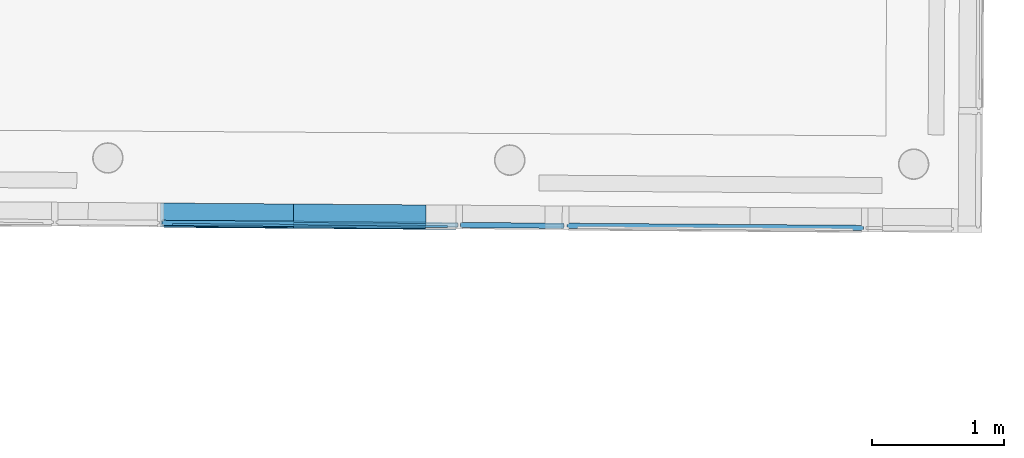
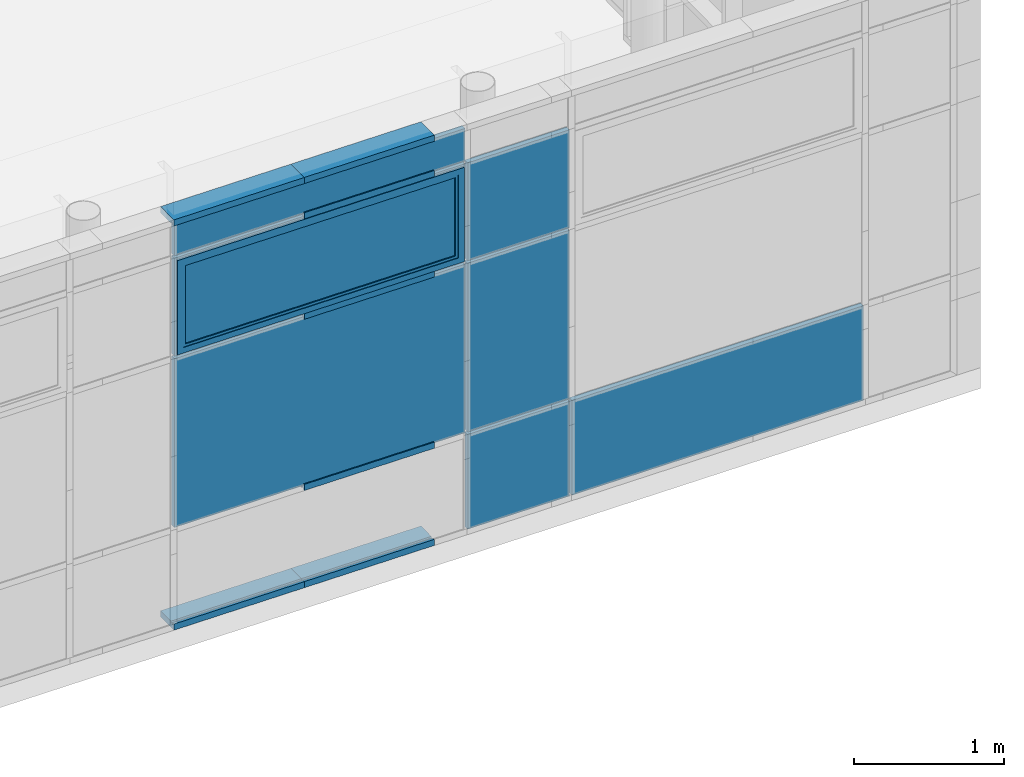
# One storey, part 141 of 196: 15 building element parts, 1 element without a shape of its own.
"""IFC2X3 building model written with IfcOpenShell, lengths in metres."""

import ifcopenshell
import ifcopenshell.guid

model = None  # the IFC model being written
_history = None  # IfcOwnerHistory: only IFC2X3 demands one
_inside = {}  # id of a spatial element -> (the spatial element, [elements in it])
_under = {}  # id of a project, library or spatial element -> (it, [spatial elements below it])
_declared = {}  # id of a project -> (the project, [libraries it declares])
_typed = {}  # id of a type object -> (the type object, [elements of that type])
_made_of = {}  # id of a material, layer set ... -> (it, [elements and type objects made of it])


def new_model(schema):
    """Start an empty IFC model of exactly this schema.

    Asked for "IFC4X3", IfcOpenShell would pick the latest addendum, in which some entities
    have other attributes; the version numbers below select the first issue.
    IFC2X3 requires an IfcOwnerHistory on every rooted entity: one is made here for all.
    """
    global model, _history
    if schema == "IFC4X3":
        model = ifcopenshell.file(schema_version=(4, 3, 0, 0))
    else:
        model = ifcopenshell.file(schema=schema)
    _inside.clear()
    _under.clear()
    _declared.clear()
    _typed.clear()
    _made_of.clear()
    _history = None
    if model.schema == "IFC2X3":
        org = make("IfcOrganization", Name="unknown")
        user = make(
            "IfcPersonAndOrganization",
            ThePerson=make("IfcPerson", FamilyName="unknown"),
            TheOrganization=org,
        )
        app = make(
            "IfcApplication",
            ApplicationDeveloper=org,
            Version="unknown",
            ApplicationFullName="unknown",
            ApplicationIdentifier="unknown",
        )
        _history = make(
            "IfcOwnerHistory",
            OwningUser=user,
            OwningApplication=app,
            ChangeAction="ADDED",
            CreationDate=0,
        )
    return model


def make(cls, **values):
    """One entity of the class cls with the attributes given. An attribute that is None is left unset."""
    return model.create_entity(
        cls, **{name: value for name, value in values.items() if value is not None}
    )


def entity(cls, *values):
    """Any entity or typed value of the class cls, its attributes in the order of the schema. None: left unset."""
    e = model.create_entity(cls)
    for i, value in enumerate(values):
        if value is not None:
            e[i] = value
    return e


def rooted(cls, **values):
    """An entity with a GlobalId (a new one), such as an element, a storey or a relation."""
    return make(cls, GlobalId=ifcopenshell.guid.new(), OwnerHistory=_history, **values)


def si_unit(unit_type, name, prefix=None):
    """IfcSIUnit, for example si_unit("LENGTHUNIT", "METRE", prefix="MILLI")."""
    return make("IfcSIUnit", UnitType=unit_type, Prefix=prefix, Name=name)


def converted_unit(unit_type, name, factor, base, dimensions=None, offset=None):
    """IfcConversionBasedUnit, such as the inch: factor (a typed value) times the base unit."""
    return make(
        "IfcConversionBasedUnit"
        if offset is None
        else "IfcConversionBasedUnitWithOffset",
        ConversionOffset=offset,
        Dimensions=None
        if dimensions is None
        else entity("IfcDimensionalExponents", *dimensions),
        UnitType=unit_type,
        Name=name,
        ConversionFactor=make(
            "IfcMeasureWithUnit", ValueComponent=factor, UnitComponent=base
        ),
    )


def derived_unit(unit_type, elements):
    """IfcDerivedUnit: a product of units, each with its exponent."""
    return make(
        "IfcDerivedUnit",
        Elements=[
            make("IfcDerivedUnitElement", Unit=unit, Exponent=power)
            for unit, power in elements
        ],
        UnitType=unit_type,
    )


def money_unit(currency):
    """IfcMonetaryUnit."""
    return make("IfcMonetaryUnit", Currency=currency)


def assignment(units):
    """IfcUnitAssignment: the units of a project."""
    return None if units is None else make("IfcUnitAssignment", Units=units)


def point(xyz):
    """IfcCartesianPoint."""
    return None if xyz is None else make("IfcCartesianPoint", Coordinates=xyz)


def direction(xyz):
    """IfcDirection."""
    return None if xyz is None else make("IfcDirection", DirectionRatios=xyz)


def frame(location, z_axis=None, x_axis=None):
    """IfcAxis2Placement3D, a coordinate frame: its origin and axes. An axis left out is left unset."""
    return make(
        "IfcAxis2Placement3D",
        Location=point(location),
        Axis=direction(z_axis),
        RefDirection=direction(x_axis),
    )


def origin_with_axes():
    """The frame at (0, 0, 0) with the z axis (0, 0, 1) and the x axis (1, 0, 0) written out."""
    return frame((0.0, 0.0, 0.0), z_axis=(0.0, 0.0, 1.0), x_axis=(1.0, 0.0, 0.0))


def place(relative_to, where):
    """IfcLocalPlacement: puts the frame where relative to a parent placement (None: the world)."""
    return make(
        "IfcLocalPlacement", PlacementRelTo=relative_to, RelativePlacement=where
    )


def context(
    kind, dimensions, precision=None, world=None, true_north=None, identifier=None
):
    """IfcGeometricRepresentationContext, for example the 3D "Model" context."""
    return make(
        "IfcGeometricRepresentationContext",
        ContextIdentifier=identifier,
        ContextType=kind,
        CoordinateSpaceDimension=dimensions,
        Precision=precision,
        WorldCoordinateSystem=world,
        TrueNorth=true_north,
    )


def subcontext(parent, identifier, kind, view, scale=None):
    """IfcGeometricRepresentationSubContext, for example "Body" below "Model"."""
    return make(
        "IfcGeometricRepresentationSubContext",
        ContextIdentifier=identifier,
        ContextType=kind,
        ParentContext=parent,
        TargetScale=scale,
        TargetView=view,
    )


def project(units=None, contexts=None):
    """IfcProject with its units and contexts."""
    return rooted(
        "IfcProject",
        Name="project",
        RepresentationContexts=contexts,
        UnitsInContext=assignment(units),
    )


def spatial(cls, under=None, at=None, **own):
    """A site, building, storey or space (cls), placed at a placement, below another one or the project."""
    s = rooted(cls, ObjectPlacement=at, **own)
    if under is not None:
        _under.setdefault(under.id(), (under, []))[1].append(s)
    return s


def faces_of(points, faces, orient=None, outer=None):
    """IfcFace entities. A face is a list of loops; a loop is a list of indices into points, from 0.

    orient and outer hold one flag for each loop. By default every Orientation is true, the
    first loop of a face is its IfcFaceOuterBound and the others are IfcFaceBound.
    """
    made = []
    for i, loops in enumerate(faces):
        bounds = []
        for j, loop in enumerate(loops):
            is_outer = j == 0 if outer is None else outer[i][j]
            bounds.append(
                make(
                    "IfcFaceOuterBound" if is_outer else "IfcFaceBound",
                    Bound=make("IfcPolyLoop", Polygon=[points[k] for k in loop]),
                    Orientation=True if orient is None else orient[i][j],
                )
            )
        made.append(make("IfcFace", Bounds=bounds))
    return made


def faceted_brep(points, faces, orient=None, outer=None, voids=None):
    """IfcFacetedBrep: a solid bounded by flat faces; with voids (closed shells), ...WithVoids."""
    shared = [point(p) for p in points]
    hull = make("IfcClosedShell", CfsFaces=faces_of(shared, faces, orient, outer))
    if voids is None:
        return make("IfcFacetedBrep", Outer=hull)
    return make(
        "IfcFacetedBrepWithVoids",
        Outer=hull,
        Voids=[
            make(cls, CfsFaces=faces_of(shared, fs, o, b)) for cls, fs, o, b in voids
        ],
    )


def shape(context_of_items, identifier, shape_type, items):
    """IfcShapeRepresentation: the items that make up one representation, for example the "Body"."""
    return make(
        "IfcShapeRepresentation",
        ContextOfItems=context_of_items,
        RepresentationIdentifier=identifier,
        RepresentationType=shape_type,
        Items=items,
    )


def material(Name=None, Category=None):
    """IfcMaterial."""
    return make("IfcMaterial", Name=Name, Category=Category)


def made_of(thing, what):
    """Note that an element or type object is made of a material, layer set ...; save() writes the relation."""
    if what is not None:
        _made_of.setdefault(what.id(), (what, []))[1].append(thing)
    return thing


def type_object(cls, material=None, **own):
    """A type object (cls), such as IfcWallType, which elements share."""
    return made_of(rooted(cls, **own), material)


def element(
    cls,
    number,
    at=None,
    inside=None,
    cuts=None,
    type_object=None,
    material=None,
    context=None,
    identifier="Body",
    shape_type=None,
    held_by="IfcProductDefinitionShape",
    body=None,
    shapes=None,
    **own,
):
    """One element of the class cls, such as IfcWall. Its Tag is "e" and its number.

    at: its placement. inside: the storey or other place that contains it. cuts: it is an
    opening in that element (IfcRelVoidsElement). A single representation is given by context,
    identifier, shape_type and body (its items); several are given by shapes. held_by: the class
    of the entity that holds the representations. save() writes the other relations.
    """
    e = rooted(cls, Tag="e%d" % number, ObjectPlacement=at, **own)
    if body is not None:
        shapes = [shape(context, identifier, shape_type, body)]
    if shapes is not None:
        e.Representation = make(held_by, Representations=shapes)
    if inside is not None:
        _inside.setdefault(inside.id(), (inside, []))[1].append(e)
    if cuts is not None:
        rooted(
            "IfcRelVoidsElement", RelatingBuildingElement=cuts, RelatedOpeningElement=e
        )
    if type_object is not None:
        _typed.setdefault(type_object.id(), (type_object, []))[1].append(e)
    return made_of(e, material)


def aggregate(whole, parts):
    """IfcRelAggregates: a whole, such as a stair, and the parts it consists of."""
    return rooted("IfcRelAggregates", RelatingObject=whole, RelatedObjects=parts)


def save(model, path):
    """Write the relations noted so far, then the file.

    IfcRelAggregates (storeys below a building ...), IfcRelContainedInSpatialStructure (elements
    in a storey), IfcRelDefinesByType, IfcRelAssociatesMaterial and IfcRelDeclares: one each for
    every whole, place, type object, material and project.
    """
    for whole, parts in _under.values():
        aggregate(whole, parts)
    for where, things in _inside.values():
        rooted(
            "IfcRelContainedInSpatialStructure",
            RelatedElements=things,
            RelatingStructure=where,
        )
    for kind, things in _typed.values():
        rooted("IfcRelDefinesByType", RelatedObjects=things, RelatingType=kind)
    for what, things in _made_of.values():
        rooted("IfcRelAssociatesMaterial", RelatedObjects=things, RelatingMaterial=what)
    for by, libraries in _declared.values():
        rooted("IfcRelDeclares", RelatingContext=by, RelatedDefinitions=libraries)
    model.write(path)


model = new_model("IFC2X3")

# Units and contexts
model_context = context("Model", 3, precision=1e-05, world=origin_with_axes(), true_north=direction((0.0, 1.0)))
body_context = subcontext(model_context, "Body", "Model", "MODEL_VIEW")
ifc_project = project(units=[si_unit("LENGTHUNIT", "METRE"), si_unit("AREAUNIT", "SQUARE_METRE"), si_unit("VOLUMEUNIT", "CUBIC_METRE"), converted_unit("PLANEANGLEUNIT", "DEGREE", entity("IfcPlaneAngleMeasure", 0.0174532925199), si_unit("PLANEANGLEUNIT", "RADIAN"), dimensions=[0, 0, 0, 0, 0, 0, 0]), money_unit("EUR"), converted_unit("TIMEUNIT", "Year", entity("IfcTimeMeasure", 31556926.0), si_unit("TIMEUNIT", "SECOND"), dimensions=[0, 0, 1, 0, 0, 0, 0]), si_unit("MASSUNIT", "GRAM", prefix="KILO"), si_unit("THERMODYNAMICTEMPERATUREUNIT", "DEGREE_CELSIUS"), si_unit("LUMINOUSINTENSITYUNIT", "LUMEN"), si_unit("ENERGYUNIT", "JOULE", prefix="MEGA"), derived_unit("THERMALCONDUCTANCEUNIT", [(si_unit("POWERUNIT", "WATT"), 1), (si_unit("LENGTHUNIT", "METRE"), -1), (si_unit("THERMODYNAMICTEMPERATUREUNIT", "KELVIN"), -1)]), derived_unit("SPECIFICHEATCAPACITYUNIT", [(si_unit("ENERGYUNIT", "JOULE"), 1), (si_unit("MASSUNIT", "GRAM", prefix="KILO"), -1), (si_unit("THERMODYNAMICTEMPERATUREUNIT", "KELVIN"), -1)]), derived_unit("MASSDENSITYUNIT", [(si_unit("MASSUNIT", "GRAM", prefix="KILO"), 1), (si_unit("VOLUMEUNIT", "CUBIC_METRE"), -1)])], contexts=[model_context])

# Site, building, storey
site_placement = place(None, origin_with_axes())
site = spatial("IfcSite", under=ifc_project, at=site_placement, Name="Gelände", CompositionType="ELEMENT")
building_placement = place(site_placement, origin_with_axes())
building = spatial("IfcBuilding", under=site, at=building_placement, Name="Gebäude", CompositionType="ELEMENT")
storey_placement = place(building_placement, frame((0.0, 0.0, -3.0), z_axis=(0.0, 0.0, 1.0), x_axis=(1.0, 0.0, 0.0)))
storey = spatial("IfcBuildingStorey", under=building, at=storey_placement, Name="KELLERGESCHOSS", CompositionType="ELEMENT", Elevation=-3.0)

# Proxy, building element parts
building_element_proxy_type = type_object("IfcBuildingElementProxyType", Name="Fassadentyp", PredefinedType="NOTDEFINED")
proxy_placement = place(storey_placement, frame((2.54090824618, 35.7894672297, 0.610000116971), z_axis=(0.0, 0.0, 1.0), x_axis=(1.0, 0.0, 0.0)))
proxy = element("IfcBuildingElementProxy", 1, at=proxy_placement, inside=storey, type_object=building_element_proxy_type, Name="Fassade-002")
ifc_material_1 = material(Name="45_Glas, Normalglas")
building_element_part_1_placement = place(proxy_placement, origin_with_axes())
building_element_part_1 = element("IfcBuildingElementPart", 2, at=building_element_part_1_placement, material=ifc_material_1, Name="45_Glas, Normalglas", context=body_context, shape_type="Brep", body=[
    faceted_brep([(3.48460452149, -0.00524939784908, 0.808463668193), (3.33933788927, -0.00419677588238, 0.808463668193), (3.33904805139, -0.0441957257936, 0.808463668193), (3.48431468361, -0.0452483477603, 0.808463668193), (3.48460452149, -0.00524939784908, 0.619999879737), (3.48460452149, -0.00524939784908, 0.0349999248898), (3.33933788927, -0.00419677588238, 0.0349999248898), (2.70229886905, 0.00041929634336, 0.0349998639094), (2.70229886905, 0.00041929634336, 0.619999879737), (2.70229886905, 0.00041929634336, 0.808463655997), (2.70200903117, -0.0395796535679, 0.808463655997), (2.70200903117, -0.0395796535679, 0.619999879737), (2.70200903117, -0.0395796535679, 0.0349998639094), (3.33904805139, -0.0441957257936, 0.0349999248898), (3.48431468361, -0.0452483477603, 0.0349999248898), (3.48431468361, -0.0452483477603, 0.619999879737)], [[[0, 1, 2, 3]], [[0, 4, 5, 6, 7, 8, 9, 1]], [[1, 9, 10, 2]], [[3, 2, 10, 11, 12, 13, 14, 15]], [[4, 0, 3, 15]], [[5, 4, 15, 14]], [[6, 5, 14, 13]], [[7, 6, 13, 12]], [[8, 7, 12, 11]], [[9, 8, 11, 10]]]),
])
building_element_part_2_placement = place(proxy_placement, origin_with_axes())
building_element_part_2 = element("IfcBuildingElementPart", 3, at=building_element_part_2_placement, material=ifc_material_1, Name="45_Glas, Normalglas", context=body_context, shape_type="Brep", body=[
    faceted_brep([(3.48460452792, -0.0052493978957, 3.02649576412), (3.33933788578, -0.00419677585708, 3.02649576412), (3.33904804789, -0.0441957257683, 3.02649576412), (3.48431469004, -0.0452483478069, 3.02649576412), (3.48460451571, -0.00524939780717, 2.51999987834), (3.48460451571, -0.00524939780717, 2.22648768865), (3.33933788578, -0.00419677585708, 2.22648768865), (2.70229887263, 0.000419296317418, 2.22648768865), (2.70229887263, 0.000419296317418, 2.51999987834), (2.70229887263, 0.000419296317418, 3.02649576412), (2.70200903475, -0.0395796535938, 3.02649576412), (2.70200903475, -0.0395796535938, 2.51999987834), (2.70200903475, -0.0395796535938, 2.22648768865), (3.33904804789, -0.0441957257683, 2.22648768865), (3.48431467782, -0.0452483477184, 2.22648768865), (3.48431467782, -0.0452483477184, 2.51999987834)], [[[0, 1, 2, 3]], [[0, 4, 5, 6, 7, 8, 9, 1]], [[1, 9, 10, 2]], [[3, 2, 10, 11, 12, 13, 14, 15]], [[4, 0, 3, 15]], [[5, 4, 15, 14]], [[6, 5, 14, 13]], [[7, 6, 13, 12]], [[8, 7, 12, 11]], [[9, 8, 11, 10]]]),
])
building_element_part_3_placement = place(proxy_placement, origin_with_axes())
building_element_part_3 = element("IfcBuildingElementPart", 4, at=building_element_part_3_placement, material=ifc_material_1, Name="45_Glas, Normalglas", context=body_context, shape_type="Brep", body=[
    faceted_brep([(5.74502981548, -0.021628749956, 0.808463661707), (4.88929718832, -0.0154279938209, 0.808463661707), (4.88900735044, -0.0554269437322, 0.808463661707), (5.74473997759, -0.0616276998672, 0.808463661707), (5.74502981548, -0.021628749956, 0.619999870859), (5.74502981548, -0.021628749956, 0.0349999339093), (4.88929718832, -0.0154279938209, 0.0349999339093), (3.50460399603, -0.00539431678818, 0.0349999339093), (3.50460399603, -0.00539431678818, 0.619999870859), (3.50460399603, -0.00539431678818, 0.808463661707), (3.50431415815, -0.0453932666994, 0.808463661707), (3.50431415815, -0.0453932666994, 0.619999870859), (3.50431415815, -0.0453932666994, 0.0349999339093), (4.88900735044, -0.0554269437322, 0.0349999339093), (5.74473997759, -0.0616276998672, 0.0349999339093), (5.74473997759, -0.0616276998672, 0.619999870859)], [[[0, 1, 2, 3]], [[0, 4, 5, 6, 7, 8, 9, 1]], [[1, 9, 10, 2]], [[3, 2, 10, 11, 12, 13, 14, 15]], [[4, 0, 3, 15]], [[5, 4, 15, 14]], [[6, 5, 14, 13]], [[7, 6, 13, 12]], [[8, 7, 12, 11]], [[9, 8, 11, 10]]]),
])
ifc_material_2 = material(Name="53_Metall, Aluminium")
building_element_part_4_placement = place(proxy_placement, origin_with_axes())
building_element_part_4 = element("IfcBuildingElementPart", 5, at=building_element_part_4_placement, material=ifc_material_2, Name="53_Metall, Aluminium", context=body_context, shape_type="Brep", body=[
    faceted_brep([(0.461251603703, -0.0333430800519, 2.24148768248), (2.66693748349, -0.049325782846, 2.24148768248), (2.66690125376, -0.0543256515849, 2.24148768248), (0.461215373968, -0.0383429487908, 2.24148768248), (0.506250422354, -0.0336691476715, 2.28648768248), (2.62193866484, -0.0489997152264, 2.28648768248), (2.62190243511, -0.0539995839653, 2.28648768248), (0.506214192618, -0.0386690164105, 2.28648768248)], [[[0, 1, 2, 3]], [[0, 4, 5, 1]], [[1, 5, 6, 2]], [[3, 2, 6, 7]], [[4, 0, 3, 7]], [[5, 4, 7, 6]]]),
    faceted_brep([(2.66693748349, -0.049325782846, 2.24148768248), (2.66693748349, -0.049325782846, 3.01149575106), (2.66690125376, -0.0543256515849, 3.01149575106), (2.66690125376, -0.0543256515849, 2.24148768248), (2.62193866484, -0.0489997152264, 2.28648768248), (2.62193866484, -0.0489997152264, 2.96649575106), (2.62190243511, -0.0539995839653, 2.96649575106), (2.62190243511, -0.0539995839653, 2.28648768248)], [[[0, 1, 2, 3]], [[0, 4, 5, 1]], [[1, 5, 6, 2]], [[3, 2, 6, 7]], [[4, 0, 3, 7]], [[5, 4, 7, 6]]]),
    faceted_brep([(0.461251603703, -0.0333430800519, 3.01149575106), (0.506250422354, -0.0336691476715, 2.96649575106), (0.506214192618, -0.0386690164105, 2.96649575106), (0.461215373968, -0.0383429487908, 3.01149575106), (2.66693748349, -0.049325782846, 3.01149575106), (2.62193866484, -0.0489997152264, 2.96649575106), (2.62190243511, -0.0539995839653, 2.96649575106), (2.66690125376, -0.0543256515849, 3.01149575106)], [[[0, 1, 2, 3]], [[0, 4, 5, 1]], [[1, 5, 6, 2]], [[3, 2, 6, 7]], [[4, 0, 3, 7]], [[5, 4, 7, 6]]]),
    faceted_brep([(0.461251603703, -0.0333430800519, 2.24148768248), (0.506250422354, -0.0336691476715, 2.28648768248), (0.506214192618, -0.0386690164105, 2.28648768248), (0.461215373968, -0.0383429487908, 2.24148768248), (0.461251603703, -0.0333430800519, 3.01149575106), (0.506250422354, -0.0336691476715, 2.96649575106), (0.506214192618, -0.0386690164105, 2.96649575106), (0.461215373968, -0.0383429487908, 3.01149575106)], [[[0, 1, 2, 3]], [[0, 4, 5, 1]], [[1, 5, 6, 2]], [[3, 2, 6, 7]], [[4, 0, 3, 7]], [[5, 4, 7, 6]]]),
    faceted_brep([(0.461613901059, 0.0166556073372, 2.24148768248), (2.66729978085, 0.000672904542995, 2.24148768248), (2.66693748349, -0.049325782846, 2.24148768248), (0.461251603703, -0.0333430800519, 2.24148768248), (0.481613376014, 0.0165106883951, 2.26148768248), (2.64730030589, 0.000817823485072, 2.26148768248), (2.64693800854, -0.049180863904, 2.26148768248), (0.481251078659, -0.0334879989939, 2.26148768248)], [[[0, 1, 2, 3]], [[0, 4, 5, 1]], [[1, 5, 6, 2]], [[3, 2, 6, 7]], [[4, 0, 3, 7]], [[5, 4, 7, 6]]]),
    faceted_brep([(2.66729978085, 0.000672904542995, 2.24148768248), (2.66729978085, 0.000672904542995, 3.01149575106), (2.66693748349, -0.049325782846, 3.01149575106), (2.66693748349, -0.049325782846, 2.24148768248), (2.64730030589, 0.000817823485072, 2.26148768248), (2.64730030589, 0.000817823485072, 2.99149575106), (2.64693800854, -0.049180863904, 2.99149575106), (2.64693800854, -0.049180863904, 2.26148768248)], [[[0, 1, 2, 3]], [[0, 4, 5, 1]], [[1, 5, 6, 2]], [[3, 2, 6, 7]], [[4, 0, 3, 7]], [[5, 4, 7, 6]]]),
    faceted_brep([(0.461613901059, 0.0166556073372, 3.01149575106), (0.481613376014, 0.0165106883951, 2.99149575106), (0.481251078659, -0.0334879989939, 2.99149575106), (0.461251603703, -0.0333430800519, 3.01149575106), (2.66729978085, 0.000672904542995, 3.01149575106), (2.64730030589, 0.000817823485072, 2.99149575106), (2.64693800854, -0.049180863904, 2.99149575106), (2.66693748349, -0.049325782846, 3.01149575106)], [[[0, 1, 2, 3]], [[0, 4, 5, 1]], [[1, 5, 6, 2]], [[3, 2, 6, 7]], [[4, 0, 3, 7]], [[5, 4, 7, 6]]]),
    faceted_brep([(0.461613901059, 0.0166556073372, 2.24148768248), (0.481613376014, 0.0165106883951, 2.26148768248), (0.481251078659, -0.0334879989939, 2.26148768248), (0.461251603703, -0.0333430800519, 2.24148768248), (0.461613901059, 0.0166556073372, 3.01149575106), (0.481613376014, 0.0165106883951, 2.99149575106), (0.481251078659, -0.0334879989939, 2.99149575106), (0.461251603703, -0.0333430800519, 3.01149575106)], [[[0, 1, 2, 3]], [[0, 4, 5, 1]], [[1, 5, 6, 2]], [[3, 2, 6, 7]], [[4, 0, 3, 7]], [[5, 4, 7, 6]]]),
    faceted_brep([(0.446614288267, 0.0167642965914, 2.2264876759), (2.68229939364, 0.00056421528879, 2.2264876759), (2.68200955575, -0.0394347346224, 2.2264876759), (0.446324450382, -0.0232346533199, 2.2264876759), (0.461613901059, 0.0166556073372, 2.24148768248), (2.66729978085, 0.000672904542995, 2.24148768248), (2.66700994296, -0.0393260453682, 2.24148768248), (0.461324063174, -0.0233433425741, 2.24148768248)], [[[0, 1, 2, 3]], [[0, 4, 5, 1]], [[1, 5, 6, 2]], [[3, 2, 6, 7]], [[4, 0, 3, 7]], [[5, 4, 7, 6]]]),
    faceted_brep([(2.68229939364, 0.00056421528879, 2.2264876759), (2.68229939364, 0.00056421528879, 3.02649575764), (2.68200955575, -0.0394347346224, 3.02649575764), (2.68200955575, -0.0394347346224, 2.2264876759), (2.66729978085, 0.000672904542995, 2.24148768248), (2.66729978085, 0.000672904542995, 3.01149575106), (2.66700994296, -0.0393260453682, 3.01149575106), (2.66700994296, -0.0393260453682, 2.24148768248)], [[[0, 1, 2, 3]], [[0, 4, 5, 1]], [[1, 5, 6, 2]], [[3, 2, 6, 7]], [[4, 0, 3, 7]], [[5, 4, 7, 6]]]),
    faceted_brep([(2.68229939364, 0.00056421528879, 3.02649575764), (0.446614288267, 0.0167642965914, 3.02649575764), (0.446324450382, -0.0232346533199, 3.02649575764), (2.68200955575, -0.0394347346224, 3.02649575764), (2.66729978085, 0.000672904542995, 3.01149575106), (0.461613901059, 0.0166556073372, 3.01149575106), (0.461324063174, -0.0233433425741, 3.01149575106), (2.66700994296, -0.0393260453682, 3.01149575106)], [[[0, 1, 2, 3]], [[0, 4, 5, 1]], [[1, 5, 6, 2]], [[3, 2, 6, 7]], [[4, 0, 3, 7]], [[5, 4, 7, 6]]]),
    faceted_brep([(0.446614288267, 0.0167642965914, 3.02649575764), (0.446614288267, 0.0167642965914, 2.2264876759), (0.446324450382, -0.0232346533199, 2.2264876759), (0.446324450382, -0.0232346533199, 3.02649575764), (0.461613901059, 0.0166556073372, 3.01149575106), (0.461613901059, 0.0166556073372, 2.24148768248), (0.461324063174, -0.0233433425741, 2.24148768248), (0.461324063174, -0.0233433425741, 3.01149575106)], [[[0, 1, 2, 3]], [[0, 4, 5, 1]], [[1, 5, 6, 2]], [[3, 2, 6, 7]], [[4, 0, 3, 7]], [[5, 4, 7, 6]]]),
    faceted_brep([(0.526249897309, -0.0338140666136, 2.30648768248), (0.5266484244, 0.0211844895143, 2.30648768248), (0.5266484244, 0.0211844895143, 2.94649575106), (0.526249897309, -0.0338140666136, 2.94649575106), (0.481251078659, -0.0334879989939, 2.26148768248), (0.48164960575, 0.021510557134, 2.26148768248), (0.48164960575, 0.021510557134, 2.99149575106), (0.481251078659, -0.0334879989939, 2.99149575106)], [[[0, 1, 2, 3]], [[4, 5, 1, 0]], [[1, 5, 6, 2]], [[3, 2, 6, 7]], [[0, 3, 7, 4]], [[7, 6, 5, 4]]]),
    faceted_brep([(2.64693800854, -0.049180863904, 2.26148768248), (2.64733653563, 0.00581769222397, 2.26148768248), (2.64733653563, 0.00581769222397, 2.99149575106), (2.64693800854, -0.049180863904, 2.99149575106), (2.60193918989, -0.0488547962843, 2.30648768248), (2.60233771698, 0.00614375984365, 2.30648768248), (2.60233771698, 0.00614375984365, 2.94649575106), (2.60193918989, -0.0488547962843, 2.94649575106)], [[[0, 1, 2, 3]], [[4, 5, 1, 0]], [[1, 5, 6, 2]], [[3, 2, 6, 7]], [[0, 3, 7, 4]], [[7, 6, 5, 4]]]),
    faceted_brep([(2.64693800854, -0.049180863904, 2.26148768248), (2.64733653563, 0.00581769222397, 2.26148768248), (2.60233771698, 0.00614375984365, 2.30648768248), (2.60193918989, -0.0488547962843, 2.30648768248), (0.481251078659, -0.0334879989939, 2.26148768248), (0.48164960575, 0.021510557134, 2.26148768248), (0.5266484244, 0.0211844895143, 2.30648768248), (0.526249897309, -0.0338140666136, 2.30648768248)], [[[0, 1, 2, 3]], [[4, 5, 1, 0]], [[1, 5, 6, 2]], [[3, 2, 6, 7]], [[0, 3, 7, 4]], [[7, 6, 5, 4]]]),
    faceted_brep([(0.481251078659, -0.0334879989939, 2.99149575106), (0.48164960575, 0.021510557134, 2.99149575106), (0.5266484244, 0.0211844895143, 2.94649575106), (0.526249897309, -0.0338140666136, 2.94649575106), (2.64693800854, -0.049180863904, 2.99149575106), (2.64733653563, 0.00581769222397, 2.99149575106), (2.60233771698, 0.00614375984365, 2.94649575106), (2.60193918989, -0.0488547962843, 2.94649575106)], [[[0, 1, 2, 3]], [[4, 5, 1, 0]], [[1, 5, 6, 2]], [[3, 2, 6, 7]], [[0, 3, 7, 4]], [[7, 6, 5, 4]]]),
])
building_element_part_5_placement = place(proxy_placement, origin_with_axes())
building_element_part_5 = element("IfcBuildingElementPart", 6, at=building_element_part_5_placement, material=ifc_material_1, Name="45_Glas, Normalglas", context=body_context, shape_type="Brep", body=[
    faceted_brep([(0.52632235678, -0.0238143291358, 2.30648768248), (0.526438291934, -0.00781474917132, 2.30648768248), (2.60212758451, -0.022855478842, 2.30648768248), (2.60201164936, -0.0388550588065, 2.30648768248), (0.52632235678, -0.0238143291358, 2.94649575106), (0.526438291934, -0.00781474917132, 2.94649575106), (2.60212758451, -0.022855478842, 2.94649575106), (2.60201164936, -0.0388550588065, 2.94649575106)], [[[0, 1, 2, 3]], [[4, 5, 1, 0]], [[1, 5, 6, 2]], [[3, 2, 6, 7]], [[0, 3, 7, 4]], [[7, 6, 5, 4]]]),
])
building_element_part_6_placement = place(proxy_placement, origin_with_axes())
building_element_part_6 = element("IfcBuildingElementPart", 7, at=building_element_part_6_placement, material=ifc_material_1, Name="45_Glas, Normalglas", context=body_context, shape_type="Brep", body=[
    faceted_brep([(3.48460452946, -0.00524939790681, 2.2064876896), (3.33933788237, -0.00419677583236, 2.2064876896), (3.33904804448, -0.0441957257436, 2.2064876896), (3.48431469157, -0.045248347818, 2.2064876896), (3.48460450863, -0.00524939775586, 1.41999988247), (3.48460450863, -0.00524939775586, 0.828463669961), (3.33933788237, -0.00419677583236, 0.828463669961), (2.70229886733, 0.000419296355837, 0.828463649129), (2.70229886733, 0.000419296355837, 1.41999988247), (2.70229886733, 0.000419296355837, 2.2064876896), (2.70200902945, -0.0395796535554, 2.2064876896), (2.70200902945, -0.0395796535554, 1.41999988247), (2.70200902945, -0.0395796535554, 0.828463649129), (3.33904804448, -0.0441957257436, 0.828463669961), (3.48431467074, -0.0452483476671, 0.828463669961), (3.48431467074, -0.0452483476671, 1.41999988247)], [[[0, 1, 2, 3]], [[0, 4, 5, 6, 7, 8, 9, 1]], [[1, 9, 10, 2]], [[3, 2, 10, 11, 12, 13, 14, 15]], [[4, 0, 3, 15]], [[5, 4, 15, 14]], [[6, 5, 14, 13]], [[7, 6, 13, 12]], [[8, 7, 12, 11]], [[9, 8, 11, 10]]]),
])
building_element_part_7_placement = place(proxy_placement, origin_with_axes())
building_element_part_7 = element("IfcBuildingElementPart", 8, at=building_element_part_7_placement, material=ifc_material_1, Name="45_Glas, Normalglas", context=body_context, shape_type="Brep", body=[
    faceted_brep([(2.68229939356, 0.000564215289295, 3.31499992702), (2.43936151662, 0.00232457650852, 3.31499992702), (2.43907167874, -0.0376743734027, 3.31499992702), (2.68200955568, -0.0394347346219, 3.31499992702), (2.68229939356, 0.000564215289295, 3.04649576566), (2.43936151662, 0.00232457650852, 3.04649576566), (1.43938776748, 0.00957052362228, 3.04649576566), (0.446614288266, 0.0167642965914, 3.04649576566), (0.446614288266, 0.0167642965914, 3.31499992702), (1.43938776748, 0.00957052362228, 3.31499992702), (1.4390979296, -0.0304284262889, 3.31499992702), (0.446324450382, -0.0232346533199, 3.31499992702), (0.446324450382, -0.0232346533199, 3.04649576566), (1.4390979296, -0.0304284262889, 3.04649576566), (2.43907167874, -0.0376743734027, 3.04649576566), (2.68200955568, -0.0394347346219, 3.04649576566)], [[[0, 1, 2, 3]], [[0, 4, 5, 6, 7, 8, 9, 1]], [[1, 9, 10, 2]], [[3, 2, 10, 11, 12, 13, 14, 15]], [[4, 0, 3, 15]], [[5, 4, 15, 14]], [[6, 5, 14, 13]], [[7, 6, 13, 12]], [[8, 7, 12, 11]], [[9, 8, 11, 10]]]),
])
building_element_part_8_placement = place(proxy_placement, origin_with_axes())
building_element_part_8 = element("IfcBuildingElementPart", 9, at=building_element_part_8_placement, material=ifc_material_1, Name="45_Glas, Normalglas", context=body_context, shape_type="Brep", body=[
    faceted_brep([(2.6822993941, 0.000564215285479, 2.20648767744), (2.43936151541, 0.00232457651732, 2.20648767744), (2.43907167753, -0.0376743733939, 2.20648767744), (2.68200955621, -0.0394347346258, 2.20648767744), (2.6822993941, 0.000564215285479, 1.41999987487), (2.6822993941, 0.000564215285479, 0.828463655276), (2.43936151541, 0.00232457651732, 0.828463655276), (1.4393877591, 0.00957052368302, 0.828463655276), (0.446614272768, 0.0167642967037, 0.828463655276), (0.446614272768, 0.0167642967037, 1.41999987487), (0.446614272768, 0.0167642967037, 2.20648767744), (1.4393877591, 0.00957052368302, 2.20648767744), (1.43909792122, -0.0304284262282, 2.20648767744), (0.446324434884, -0.0232346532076, 2.20648767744), (0.446324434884, -0.0232346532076, 1.41999987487), (0.446324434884, -0.0232346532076, 0.828463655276), (1.43909792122, -0.0304284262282, 0.828463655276), (2.43907167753, -0.0376743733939, 0.828463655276), (2.68200955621, -0.0394347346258, 0.828463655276), (2.68200955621, -0.0394347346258, 1.41999987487)], [[[0, 1, 2, 3]], [[0, 4, 5, 6, 7, 8, 9, 10, 11, 1]], [[1, 11, 12, 2]], [[3, 2, 12, 13, 14, 15, 16, 17, 18, 19]], [[4, 0, 3, 19]], [[5, 4, 19, 18]], [[6, 5, 18, 17]], [[7, 6, 17, 16]], [[8, 7, 16, 15]], [[9, 8, 15, 14]], [[10, 9, 14, 13]], [[11, 10, 13, 12]]]),
])
building_element_part_9_placement = place(proxy_placement, origin_with_axes())
building_element_part_9 = element("IfcBuildingElementPart", 10, at=building_element_part_9_placement, material=ifc_material_2, Name="53_Metall, Aluminium", context=body_context, shape_type="Brep", body=[
    faceted_brep([(2.43928906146, -0.00767516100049, 0.03499984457), (2.43914414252, -0.0276746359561, 0.03499984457), (2.43914414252, -0.0276746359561, 0.04999984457), (2.43899922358, -0.0476741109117, 0.04999984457), (2.43899922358, -0.0476741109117, -1.55430020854e-07), (2.44030349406, 0.132321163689, -1.55430020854e-07), (2.44030349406, 0.132321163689, 0.04999984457), (2.43928906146, -0.00767516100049, 0.04999984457), (1.43931531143, -0.000429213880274, 0.03499984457), (1.43917039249, -0.0204286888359, 0.03499984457), (1.43917039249, -0.0204286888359, 0.04999984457), (1.43902547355, -0.0404281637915, 0.04999984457), (1.43902547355, -0.0404281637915, -1.55430020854e-07), (1.44032974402, 0.139567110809, -1.55430020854e-07), (1.44032974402, 0.139567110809, 0.04999984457), (1.43931531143, -0.000429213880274, 0.04999984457)], [[[0, 1, 2, 3, 4, 5, 6, 7]], [[1, 0, 8, 9]], [[10, 2, 1, 9]], [[2, 10, 11, 3]], [[12, 4, 3, 11]], [[13, 5, 4, 12]], [[14, 6, 5, 13]], [[15, 7, 6, 14]], [[0, 7, 15, 8]], [[8, 15, 14, 13, 12, 11, 10, 9]]]),
])
building_element_part_10_placement = place(proxy_placement, origin_with_axes())
building_element_part_10 = element("IfcBuildingElementPart", 11, at=building_element_part_10_placement, material=ifc_material_2, Name="53_Metall, Aluminium", context=body_context, shape_type="Brep", body=[
    faceted_brep([(1.43931531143, -0.000429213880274, 0.03499984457), (1.43917039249, -0.0204286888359, 0.03499984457), (1.43917039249, -0.0204286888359, 0.04999984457), (1.43902547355, -0.0404281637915, 0.04999984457), (1.43902547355, -0.0404281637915, -1.55430020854e-07), (1.44032974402, 0.139567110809, -1.55430020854e-07), (1.44032974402, 0.139567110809, 0.04999984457), (1.43931531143, -0.000429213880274, 0.04999984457), (0.436542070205, 0.00683701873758, 0.03499984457), (0.436397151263, -0.013162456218, 0.03499984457), (0.436397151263, -0.013162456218, 0.04999984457), (0.436252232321, -0.0331619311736, 0.04999984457), (0.436252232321, -0.0331619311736, -1.55430020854e-07), (0.4375565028, 0.146833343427, -1.55430020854e-07), (0.4375565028, 0.146833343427, 0.04999984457), (0.436542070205, 0.00683701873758, 0.04999984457)], [[[0, 1, 2, 3, 4, 5, 6, 7]], [[1, 0, 8, 9]], [[10, 2, 1, 9]], [[2, 10, 11, 3]], [[12, 4, 3, 11]], [[13, 5, 4, 12]], [[14, 6, 5, 13]], [[15, 7, 6, 14]], [[0, 7, 15, 8]], [[8, 15, 14, 13, 12, 11, 10, 9]]]),
])
building_element_part_11_placement = place(proxy_placement, origin_with_axes())
building_element_part_11 = element("IfcBuildingElementPart", 12, at=building_element_part_11_placement, material=ifc_material_2, Name="53_Metall, Aluminium", context=body_context, shape_type="Brep", body=[
    faceted_brep([(2.43928905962, -0.00767516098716, 2.20648767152), (2.43928905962, -0.00767516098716, 2.19148767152), (2.44030349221, 0.132321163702, 2.19148767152), (2.44030349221, 0.132321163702, 2.24148767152), (2.43928905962, -0.00767516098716, 2.24148767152), (2.43928905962, -0.00767516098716, 2.22648767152), (2.43914414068, -0.0276746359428, 2.22648767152), (2.43914414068, -0.0276746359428, 2.24148767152), (2.43899922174, -0.0476741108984, 2.24148767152), (2.43899922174, -0.0476741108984, 2.19148767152), (2.43914414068, -0.0276746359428, 2.19148767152), (2.43914414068, -0.0276746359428, 2.20648767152), (1.43931531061, -0.000429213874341, 2.20648767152), (1.43931531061, -0.000429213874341, 2.19148767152), (1.44032974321, 0.139567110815, 2.19148767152), (1.44032974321, 0.139567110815, 2.24148767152), (1.43931531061, -0.000429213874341, 2.24148767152), (1.43931531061, -0.000429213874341, 2.22648767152), (1.43917039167, -0.02042868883, 2.22648767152), (1.43917039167, -0.02042868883, 2.24148767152), (1.43902547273, -0.0404281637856, 2.24148767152), (1.43902547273, -0.0404281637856, 2.19148767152), (1.43917039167, -0.02042868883, 2.19148767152), (1.43917039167, -0.02042868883, 2.20648767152)], [[[0, 1, 2, 3, 4, 5, 6, 7, 8, 9, 10, 11]], [[1, 0, 12, 13]], [[1, 13, 14, 2]], [[3, 2, 14, 15]], [[4, 3, 15, 16]], [[4, 16, 17, 5]], [[5, 17, 18, 6]], [[7, 6, 18, 19]], [[19, 20, 8, 7]], [[9, 8, 20, 21]], [[22, 10, 9, 21]], [[11, 10, 22, 23]], [[0, 11, 23, 12]], [[23, 22, 21, 20, 19, 18, 17, 16, 15, 14, 13, 12]]]),
])
building_element_part_12_placement = place(proxy_placement, origin_with_axes())
building_element_part_12 = element("IfcBuildingElementPart", 13, at=building_element_part_12_placement, material=ifc_material_2, Name="53_Metall, Aluminium", context=body_context, shape_type="Brep", body=[
    faceted_brep([(2.43928905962, -0.00767516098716, 0.808463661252), (2.43928905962, -0.00767516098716, 0.793463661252), (2.44030349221, 0.132321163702, 0.793463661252), (2.44030349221, 0.132321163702, 0.843463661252), (2.43928905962, -0.00767516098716, 0.843463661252), (2.43928905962, -0.00767516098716, 0.828463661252), (2.43914414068, -0.0276746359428, 0.828463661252), (2.43914414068, -0.0276746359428, 0.843463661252), (2.43899922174, -0.0476741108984, 0.843463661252), (2.43899922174, -0.0476741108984, 0.793463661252), (2.43914414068, -0.0276746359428, 0.793463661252), (2.43914414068, -0.0276746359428, 0.808463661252), (1.43931531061, -0.000429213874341, 0.808463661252), (1.43931531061, -0.000429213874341, 0.793463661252), (1.44032974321, 0.139567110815, 0.793463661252), (1.44032974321, 0.139567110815, 0.843463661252), (1.43931531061, -0.000429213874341, 0.843463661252), (1.43931531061, -0.000429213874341, 0.828463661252), (1.43917039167, -0.02042868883, 0.828463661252), (1.43917039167, -0.02042868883, 0.843463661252), (1.43902547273, -0.0404281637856, 0.843463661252), (1.43902547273, -0.0404281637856, 0.793463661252), (1.43917039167, -0.02042868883, 0.793463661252), (1.43917039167, -0.02042868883, 0.808463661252)], [[[0, 1, 2, 3, 4, 5, 6, 7, 8, 9, 10, 11]], [[1, 0, 12, 13]], [[1, 13, 14, 2]], [[3, 2, 14, 15]], [[4, 3, 15, 16]], [[4, 16, 17, 5]], [[5, 17, 18, 6]], [[7, 6, 18, 19]], [[19, 20, 8, 7]], [[9, 8, 20, 21]], [[22, 10, 9, 21]], [[11, 10, 22, 23]], [[0, 11, 23, 12]], [[23, 22, 21, 20, 19, 18, 17, 16, 15, 14, 13, 12]]]),
])
building_element_part_13_placement = place(proxy_placement, origin_with_axes())
building_element_part_13 = element("IfcBuildingElementPart", 14, at=building_element_part_13_placement, material=ifc_material_2, Name="53_Metall, Aluminium", context=body_context, shape_type="Brep", body=[
    faceted_brep([(2.43928905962, -0.00767516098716, 3.02649576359), (2.43928905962, -0.00767516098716, 3.01149576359), (2.44030349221, 0.132321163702, 3.01149576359), (2.44030349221, 0.132321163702, 3.06149576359), (2.43928905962, -0.00767516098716, 3.06149576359), (2.43928905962, -0.00767516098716, 3.04649576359), (2.43914414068, -0.0276746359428, 3.04649576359), (2.43914414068, -0.0276746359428, 3.06149576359), (2.43899922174, -0.0476741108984, 3.06149576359), (2.43899922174, -0.0476741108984, 3.01149576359), (2.43914414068, -0.0276746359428, 3.01149576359), (2.43914414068, -0.0276746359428, 3.02649576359), (1.43931531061, -0.000429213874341, 3.02649576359), (1.43931531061, -0.000429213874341, 3.01149576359), (1.44032974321, 0.139567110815, 3.01149576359), (1.44032974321, 0.139567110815, 3.06149576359), (1.43931531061, -0.000429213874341, 3.06149576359), (1.43931531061, -0.000429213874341, 3.04649576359), (1.43917039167, -0.02042868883, 3.04649576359), (1.43917039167, -0.02042868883, 3.06149576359), (1.43902547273, -0.0404281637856, 3.06149576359), (1.43902547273, -0.0404281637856, 3.01149576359), (1.43917039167, -0.02042868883, 3.01149576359), (1.43917039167, -0.02042868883, 3.02649576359)], [[[0, 1, 2, 3, 4, 5, 6, 7, 8, 9, 10, 11]], [[1, 0, 12, 13]], [[1, 13, 14, 2]], [[3, 2, 14, 15]], [[4, 3, 15, 16]], [[4, 16, 17, 5]], [[5, 17, 18, 6]], [[7, 6, 18, 19]], [[19, 20, 8, 7]], [[9, 8, 20, 21]], [[22, 10, 9, 21]], [[11, 10, 22, 23]], [[0, 11, 23, 12]], [[23, 22, 21, 20, 19, 18, 17, 16, 15, 14, 13, 12]]]),
])
building_element_part_14_placement = place(proxy_placement, origin_with_axes())
building_element_part_14 = element("IfcBuildingElementPart", 15, at=building_element_part_14_placement, material=ifc_material_2, Name="53_Metall, Aluminium", context=body_context, shape_type="Brep", body=[
    faceted_brep([(1.43931531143, -0.000429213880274, 3.31499994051), (1.43931531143, -0.000429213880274, 3.29999994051), (1.44032974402, 0.139567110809, 3.29999994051), (1.44032974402, 0.139567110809, 3.34999994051), (1.43902547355, -0.0404281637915, 3.34999994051), (1.43902547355, -0.0404281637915, 3.29999994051), (1.43917039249, -0.0204286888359, 3.29999994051), (1.43917039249, -0.0204286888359, 3.31499994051), (0.436542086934, 0.00683701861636, 3.31499994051), (0.436542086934, 0.00683701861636, 3.29999994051), (0.437556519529, 0.146833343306, 3.29999994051), (0.437556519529, 0.146833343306, 3.34999994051), (0.43625224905, -0.0331619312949, 3.34999994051), (0.43625224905, -0.0331619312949, 3.29999994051), (0.436397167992, -0.0131624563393, 3.29999994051), (0.436397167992, -0.0131624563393, 3.31499994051)], [[[0, 1, 2, 3, 4, 5, 6, 7]], [[0, 8, 9, 1]], [[9, 10, 2, 1]], [[10, 11, 3, 2]], [[11, 12, 4, 3]], [[12, 13, 5, 4]], [[6, 5, 13, 14]], [[14, 15, 7, 6]], [[7, 15, 8, 0]], [[8, 15, 14, 13, 12, 11, 10, 9]]]),
])
building_element_part_15_placement = place(proxy_placement, origin_with_axes())
building_element_part_15 = element("IfcBuildingElementPart", 16, at=building_element_part_15_placement, material=ifc_material_2, Name="53_Metall, Aluminium", context=body_context, shape_type="Brep", body=[
    faceted_brep([(2.43928905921, -0.00767516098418, 3.31499994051), (2.43928905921, -0.00767516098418, 3.29999994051), (2.44030349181, 0.132321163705, 3.29999994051), (2.44030349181, 0.132321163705, 3.34999994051), (2.43899922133, -0.0476741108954, 3.34999994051), (2.43899922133, -0.0476741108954, 3.29999994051), (2.43914414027, -0.0276746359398, 3.29999994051), (2.43914414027, -0.0276746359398, 3.31499994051), (1.43931531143, -0.000429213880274, 3.31499994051), (1.43931531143, -0.000429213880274, 3.29999994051), (1.44032974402, 0.139567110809, 3.29999994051), (1.44032974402, 0.139567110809, 3.34999994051), (1.43902547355, -0.0404281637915, 3.34999994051), (1.43902547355, -0.0404281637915, 3.29999994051), (1.43917039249, -0.0204286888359, 3.29999994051), (1.43917039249, -0.0204286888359, 3.31499994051)], [[[0, 1, 2, 3, 4, 5, 6, 7]], [[0, 8, 9, 1]], [[9, 10, 2, 1]], [[10, 11, 3, 2]], [[11, 12, 4, 3]], [[12, 13, 5, 4]], [[6, 5, 13, 14]], [[14, 15, 7, 6]], [[7, 15, 8, 0]], [[8, 15, 14, 13, 12, 11, 10, 9]]]),
])
aggregate(proxy, [building_element_part_1, building_element_part_2, building_element_part_3, building_element_part_4, building_element_part_5, building_element_part_6, building_element_part_7, building_element_part_8, building_element_part_9, building_element_part_10, building_element_part_11, building_element_part_12, building_element_part_13, building_element_part_14, building_element_part_15])

save(model, "model.ifc")
